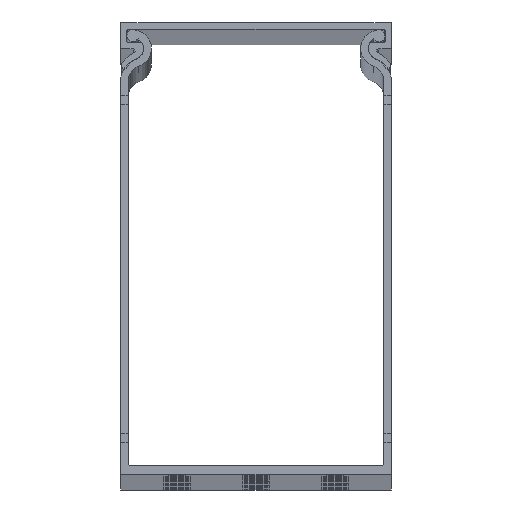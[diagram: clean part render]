
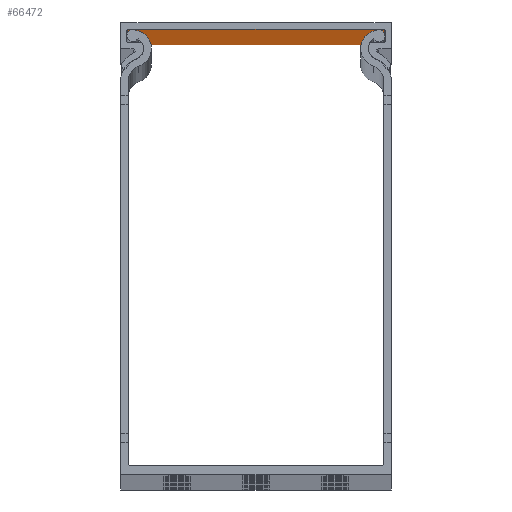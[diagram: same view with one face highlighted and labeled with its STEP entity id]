
A CAD part, top view. The second image highlights one B-rep face of the part: STEP entity #66472.
In plain terms, the highlighted planar face has unit normal (0, -1, 0).
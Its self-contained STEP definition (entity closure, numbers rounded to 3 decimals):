
#443 = CARTESIAN_POINT ( 'NONE',  ( 2596.807, 1295.656, 0. ) ) ;
#4294 = VERTEX_POINT ( 'NONE', #7804 ) ;
#5035 = CARTESIAN_POINT ( 'NONE',  ( 2568.407, 1295.656, 2000. ) ) ;
#5793 = CARTESIAN_POINT ( 'NONE',  ( 2596.807, 1295.656, 2000. ) ) ;
#5910 = VECTOR ( 'NONE', #61221, 1000. ) ;
#6204 = VERTEX_POINT ( 'NONE', #11563 ) ;
#6231 = AXIS2_PLACEMENT_3D ( 'NONE', #46006, #9691, #14272 ) ;
#7804 = CARTESIAN_POINT ( 'NONE',  ( 2540.007, 1295.656, 2000. ) ) ;
#8277 = VECTOR ( 'NONE', #25073, 1000. ) ;
#9460 = PLANE ( 'NONE',  #6231 ) ;
#9691 = DIRECTION ( 'NONE',  ( 0., 1., 0. ) ) ;
#10295 = DIRECTION ( 'NONE',  ( 0., 0., -1. ) ) ;
#11563 = CARTESIAN_POINT ( 'NONE',  ( 2540.007, 1295.656, 0. ) ) ;
#12469 = FACE_OUTER_BOUND ( 'NONE', #38983, .T. ) ;
#14272 = DIRECTION ( 'NONE',  ( 0., 0., 1. ) ) ;
#14385 = LINE ( 'NONE', #62655, #61861 ) ;
#16073 = ORIENTED_EDGE ( 'NONE', *, *, #36852, .T. ) ;
#19300 = ORIENTED_EDGE ( 'NONE', *, *, #61883, .F. ) ;
#23249 = ORIENTED_EDGE ( 'NONE', *, *, #52870, .T. ) ;
#23429 = LINE ( 'NONE', #59964, #30005 ) ;
#24579 = VERTEX_POINT ( 'NONE', #443 ) ;
#25073 = DIRECTION ( 'NONE',  ( 1., 0., 0. ) ) ;
#30005 = VECTOR ( 'NONE', #34063, 1000. ) ;
#32810 = LINE ( 'NONE', #5035, #8277 ) ;
#34063 = DIRECTION ( 'NONE',  ( 1., 0., 0. ) ) ;
#36852 = EDGE_CURVE ( 'NONE', #6204, #24579, #23429, .T. ) ;
#38983 = EDGE_LOOP ( 'NONE', ( #16073, #19300, #48830, #23249 ) ) ;
#45101 = LINE ( 'NONE', #49931, #5910 ) ;
#46006 = CARTESIAN_POINT ( 'NONE',  ( 2568.407, 1295.656, 2000. ) ) ;
#48830 = ORIENTED_EDGE ( 'NONE', *, *, #49889, .F. ) ;
#49365 = VERTEX_POINT ( 'NONE', #5793 ) ;
#49889 = EDGE_CURVE ( 'NONE', #4294, #49365, #32810, .T. ) ;
#49931 = CARTESIAN_POINT ( 'NONE',  ( 2596.807, 1295.656, 2000. ) ) ;
#52870 = EDGE_CURVE ( 'NONE', #4294, #6204, #14385, .T. ) ;
#59964 = CARTESIAN_POINT ( 'NONE',  ( 2568.407, 1295.656, 0. ) ) ;
#61221 = DIRECTION ( 'NONE',  ( 0., 0., -1. ) ) ;
#61861 = VECTOR ( 'NONE', #10295, 1000. ) ;
#61883 = EDGE_CURVE ( 'NONE', #49365, #24579, #45101, .T. ) ;
#62655 = CARTESIAN_POINT ( 'NONE',  ( 2540.007, 1295.656, 2000. ) ) ;
#66472 = ADVANCED_FACE ( 'NONE', ( #12469 ), #9460, .F. ) ;
